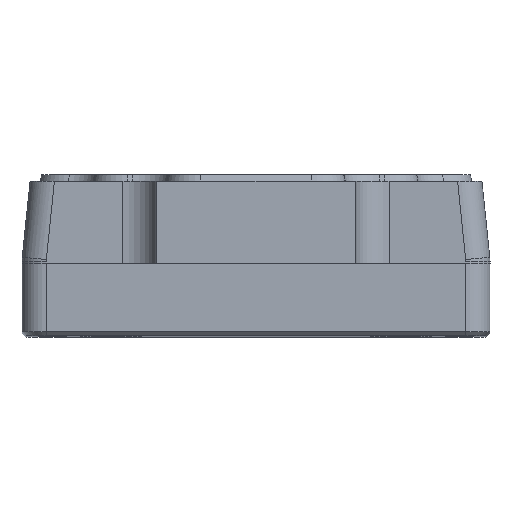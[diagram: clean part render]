
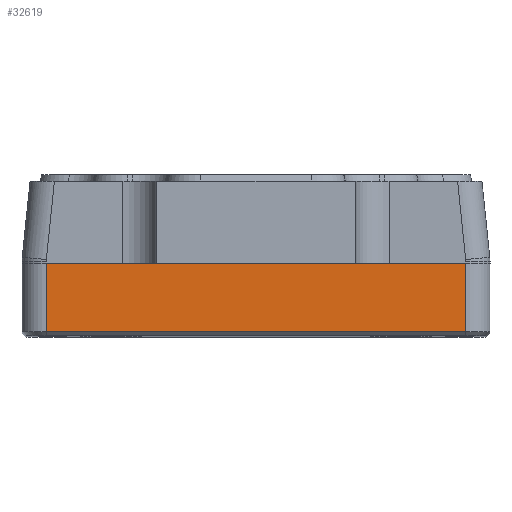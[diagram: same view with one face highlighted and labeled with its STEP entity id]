
A CAD part, top view. The second image highlights one B-rep face of the part: STEP entity #32619.
In plain terms, the highlighted planar face has unit normal (0, 0, 1).
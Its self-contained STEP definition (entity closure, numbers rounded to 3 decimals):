
#3668=DIRECTION('',(0.,-1.,0.));
#3669=VECTOR('',#3668,8.5);
#3670=CARTESIAN_POINT('',(26.,9.,153.));
#3671=LINE('',#3670,#3669);
#3676=DIRECTION('',(-1.,0.,0.));
#3677=VECTOR('',#3676,52.);
#3678=CARTESIAN_POINT('',(26.,9.,153.));
#3679=LINE('',#3678,#3677);
#3680=DIRECTION('',(1.,0.,0.));
#3681=VECTOR('',#3680,52.);
#3682=CARTESIAN_POINT('',(-26.,0.5,153.));
#3683=LINE('',#3682,#3681);
#3688=DIRECTION('',(0.,1.,0.));
#3689=VECTOR('',#3688,8.5);
#3690=CARTESIAN_POINT('',(-26.,0.5,153.));
#3691=LINE('',#3690,#3689);
#22055=CARTESIAN_POINT('',(-26.,0.5,153.));
#22057=VERTEX_POINT('',#22055);
#23164=CARTESIAN_POINT('',(26.,9.,153.));
#23166=VERTEX_POINT('',#23164);
#23838=CARTESIAN_POINT('',(26.,0.5,
153.));
#23839=VERTEX_POINT('',#23838);
#25314=CARTESIAN_POINT('',(-26.,9.,153.));
#25315=VERTEX_POINT('',#25314);
#32606=CARTESIAN_POINT('',(0.,4.5,153.));
#32607=DIRECTION('',(0.,0.,1.));
#32608=DIRECTION('',(1.,0.,0.));
#32609=AXIS2_PLACEMENT_3D('',#32606,#32607,#32608);
#32610=PLANE('',#32609);
#32612=ORIENTED_EDGE('',*,*,#32611,.T.);
#32613=ORIENTED_EDGE('',*,*,#32490,.F.);
#32614=ORIENTED_EDGE('',*,*,#32597,.T.);
#32616=ORIENTED_EDGE('',*,*,#32615,.F.);
#32617=EDGE_LOOP('',(#32612,#32613,#32614,#32616));
#32618=FACE_OUTER_BOUND('',#32617,.F.);
#32619=ADVANCED_FACE('',(#32618),#32610,.T.);
#32490=EDGE_CURVE('',#23166,#25315,#3679,.T.);
#32597=EDGE_CURVE('',#23166,#23839,#3671,.T.);
#32611=EDGE_CURVE('',#22057,#25315,#3691,.T.);
#32615=EDGE_CURVE('',#22057,#23839,#3683,.T.);
